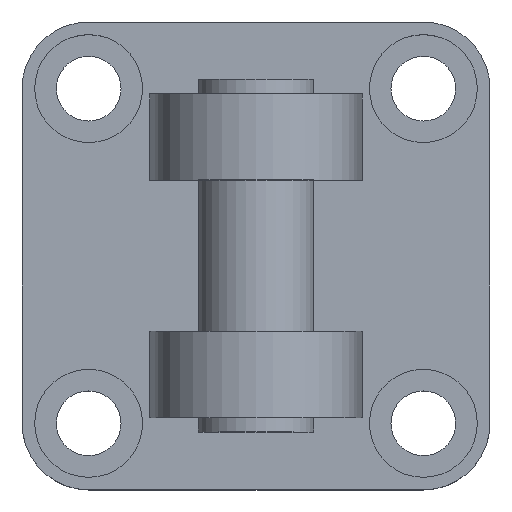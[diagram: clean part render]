
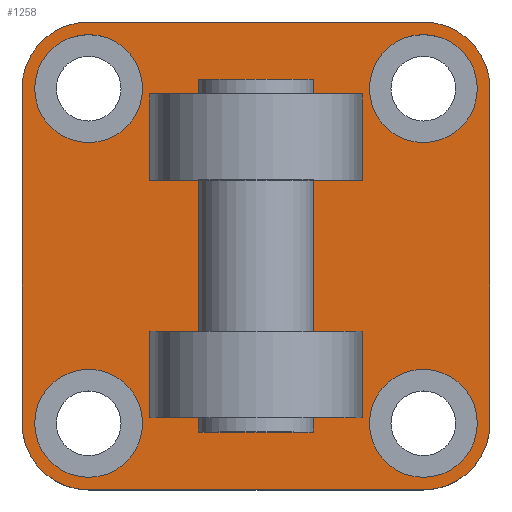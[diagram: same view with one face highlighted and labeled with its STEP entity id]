
A CAD part, top view. The second image highlights one B-rep face of the part: STEP entity #1258.
In plain terms, the highlighted planar face has unit normal (0, 0, 1).
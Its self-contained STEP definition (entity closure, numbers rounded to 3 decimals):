
#151=CARTESIAN_POINT('',(32.5,-23.25,10.0));
#152=VERTEX_POINT('',#151);
#153=CARTESIAN_POINT('',(23.25,-32.5,10.0));
#154=VERTEX_POINT('',#153);
#155=CARTESIAN_POINT('',(23.25,-23.25,10.0));
#156=DIRECTION('',(0.0,0.0,-1.));
#157=DIRECTION('',(0.707,-0.707,0.0));
#158=AXIS2_PLACEMENT_3D('',#155,#156,#157);
#159=CIRCLE('',#158,9.25);
#160=EDGE_CURVE('',#152,#154,#159,.T.);
#202=CARTESIAN_POINT('',(32.5,23.25,10.0));
#203=VERTEX_POINT('',#202);
#210=CARTESIAN_POINT('',(32.5,23.25,10.0));
#211=DIRECTION('',(0.0,-1.0,0.0));
#212=VECTOR('',#211,46.5);
#213=LINE('',#210,#212);
#214=EDGE_CURVE('',#203,#152,#213,.T.);
#338=CARTESIAN_POINT('',(-32.5,23.25,10.0));
#339=VERTEX_POINT('',#338);
#340=CARTESIAN_POINT('',(-23.25,32.5,10.0));
#341=VERTEX_POINT('',#340);
#342=CARTESIAN_POINT('',(-23.25,23.25,10.0));
#343=DIRECTION('',(0.0,0.0,-1.));
#344=DIRECTION('',(-0.707,0.707,0.0));
#345=AXIS2_PLACEMENT_3D('',#342,#343,#344);
#346=CIRCLE('',#345,9.25);
#347=EDGE_CURVE('',#339,#341,#346,.T.);
#371=CARTESIAN_POINT('',(23.25,32.5,10.0));
#372=VERTEX_POINT('',#371);
#373=CARTESIAN_POINT('',(-23.25,32.5,10.0));
#374=DIRECTION('',(1.0,0.0,0.0));
#375=VECTOR('',#374,46.5);
#376=LINE('',#373,#375);
#377=EDGE_CURVE('',#341,#372,#376,.T.);
#394=CARTESIAN_POINT('',(23.25,23.25,10.0));
#395=DIRECTION('',(0.0,0.0,-1.));
#396=DIRECTION('',(0.707,0.707,0.0));
#397=AXIS2_PLACEMENT_3D('',#394,#395,#396);
#398=CIRCLE('',#397,9.25);
#399=EDGE_CURVE('',#372,#203,#398,.T.);
#412=CARTESIAN_POINT('',(-23.25,-32.5,10.0));
#413=VERTEX_POINT('',#412);
#414=CARTESIAN_POINT('',(-32.5,-23.25,10.0));
#415=VERTEX_POINT('',#414);
#416=CARTESIAN_POINT('',(-23.25,-23.25,10.0));
#417=DIRECTION('',(0.0,0.0,-1.));
#418=DIRECTION('',(-0.707,-0.707,0.0));
#419=AXIS2_PLACEMENT_3D('',#416,#417,#418);
#420=CIRCLE('',#419,9.25);
#421=EDGE_CURVE('',#413,#415,#420,.T.);
#447=CARTESIAN_POINT('',(-32.5,-23.25,10.0));
#448=DIRECTION('',(0.0,1.0,0.0));
#449=VECTOR('',#448,46.5);
#450=LINE('',#447,#449);
#451=EDGE_CURVE('',#415,#339,#450,.T.);
#510=CARTESIAN_POINT('',(30.75,23.25,10.0));
#511=VERTEX_POINT('',#510);
#512=CARTESIAN_POINT('',(23.25,23.25,10.0));
#513=DIRECTION('',(0.0,0.0,-1.0));
#514=DIRECTION('',(1.0,0.0,0.0));
#515=AXIS2_PLACEMENT_3D('',#512,#513,#514);
#516=CIRCLE('',#515,7.5);
#517=EDGE_CURVE('',#511,#511,#516,.T.);
#612=CARTESIAN_POINT('',(-15.75,-23.25,10.0));
#613=VERTEX_POINT('',#612);
#614=CARTESIAN_POINT('',(-23.25,-23.25,10.0));
#615=DIRECTION('',(0.0,0.0,-1.0));
#616=DIRECTION('',(1.0,0.0,0.0));
#617=AXIS2_PLACEMENT_3D('',#614,#615,#616);
#618=CIRCLE('',#617,7.5);
#619=EDGE_CURVE('',#613,#613,#618,.T.);
#714=CARTESIAN_POINT('',(-15.75,23.25,10.0));
#715=VERTEX_POINT('',#714);
#716=CARTESIAN_POINT('',(-23.25,23.25,10.0));
#717=DIRECTION('',(0.0,0.0,-1.0));
#718=DIRECTION('',(1.0,0.0,0.0));
#719=AXIS2_PLACEMENT_3D('',#716,#717,#718);
#720=CIRCLE('',#719,7.5);
#721=EDGE_CURVE('',#715,#715,#720,.T.);
#816=CARTESIAN_POINT('',(30.75,-23.25,10.0));
#817=VERTEX_POINT('',#816);
#818=CARTESIAN_POINT('',(23.25,-23.25,10.0));
#819=DIRECTION('',(0.0,0.0,-1.0));
#820=DIRECTION('',(1.0,0.0,0.0));
#821=AXIS2_PLACEMENT_3D('',#818,#819,#820);
#822=CIRCLE('',#821,7.5);
#823=EDGE_CURVE('',#817,#817,#822,.T.);
#919=CARTESIAN_POINT('',(14.756,-10.5,10.));
#920=VERTEX_POINT('',#919);
#929=CARTESIAN_POINT('',(-14.756,-10.5,10.));
#930=VERTEX_POINT('',#929);
#931=CARTESIAN_POINT('',(14.756,-10.5,10.));
#932=DIRECTION('',(-1.0,0.0,0.0));
#933=VECTOR('',#932,29.511);
#934=LINE('',#931,#933);
#935=EDGE_CURVE('',#920,#930,#934,.T.);
#965=CARTESIAN_POINT('',(14.756,10.5,10.));
#966=VERTEX_POINT('',#965);
#982=CARTESIAN_POINT('',(-14.756,10.5,10.));
#983=VERTEX_POINT('',#982);
#990=CARTESIAN_POINT('',(14.756,10.5,10.));
#991=DIRECTION('',(-1.0,0.0,0.0));
#992=VECTOR('',#991,29.511);
#993=LINE('',#990,#992);
#994=EDGE_CURVE('',#966,#983,#993,.T.);
#1016=CARTESIAN_POINT('',(14.756,-22.5,10.0));
#1017=VERTEX_POINT('',#1016);
#1024=CARTESIAN_POINT('',(14.756,-10.5,10.));
#1025=DIRECTION('',(0.0,-1.0,0.0));
#1026=VECTOR('',#1025,12.);
#1027=LINE('',#1024,#1026);
#1028=EDGE_CURVE('',#920,#1017,#1027,.T.);
#1064=CARTESIAN_POINT('',(-14.756,-22.5,10.0));
#1065=VERTEX_POINT('',#1064);
#1066=CARTESIAN_POINT('',(-14.756,-22.5,10.0));
#1067=DIRECTION('',(0.0,1.0,0.0));
#1068=VECTOR('',#1067,12.);
#1069=LINE('',#1066,#1068);
#1070=EDGE_CURVE('',#1065,#930,#1069,.T.);
#1089=CARTESIAN_POINT('',(14.756,-22.5,10.0));
#1090=DIRECTION('',(-1.0,0.0,0.0));
#1091=VECTOR('',#1090,29.511);
#1092=LINE('',#1089,#1091);
#1093=EDGE_CURVE('',#1017,#1065,#1092,.T.);
#1108=CARTESIAN_POINT('',(14.756,22.5,10.0));
#1109=VERTEX_POINT('',#1108);
#1110=CARTESIAN_POINT('',(14.756,22.5,10.0));
#1111=DIRECTION('',(0.0,-1.0,0.0));
#1112=VECTOR('',#1111,12.);
#1113=LINE('',#1110,#1112);
#1114=EDGE_CURVE('',#1109,#966,#1113,.T.);
#1165=CARTESIAN_POINT('',(-14.756,22.5,10.0));
#1166=VERTEX_POINT('',#1165);
#1173=CARTESIAN_POINT('',(-14.756,10.5,10.));
#1174=DIRECTION('',(0.0,1.0,0.0));
#1175=VECTOR('',#1174,12.);
#1176=LINE('',#1173,#1175);
#1177=EDGE_CURVE('',#983,#1166,#1176,.T.);
#1187=CARTESIAN_POINT('',(-14.756,22.5,10.0));
#1188=DIRECTION('',(1.0,0.0,0.0));
#1189=VECTOR('',#1188,29.511);
#1190=LINE('',#1187,#1189);
#1191=EDGE_CURVE('',#1166,#1109,#1190,.T.);
#1208=CARTESIAN_POINT('',(23.25,-32.5,10.0));
#1209=DIRECTION('',(-1.0,0.0,0.0));
#1210=VECTOR('',#1209,46.5);
#1211=LINE('',#1208,#1210);
#1212=EDGE_CURVE('',#154,#413,#1211,.T.);
#1219=CARTESIAN_POINT('',(0.0,0.,10.0));
#1220=DIRECTION('',(0.0,0.0,1.0));
#1221=DIRECTION('',(1.0,0.0,0.0));
#1222=AXIS2_PLACEMENT_3D('',#1219,#1220,#1221);
#1223=PLANE('',#1222);
#1224=ORIENTED_EDGE('',*,*,#160,.F.);
#1225=ORIENTED_EDGE('',*,*,#214,.F.);
#1226=ORIENTED_EDGE('',*,*,#399,.F.);
#1227=ORIENTED_EDGE('',*,*,#377,.F.);
#1228=ORIENTED_EDGE('',*,*,#347,.F.);
#1229=ORIENTED_EDGE('',*,*,#451,.F.);
#1230=ORIENTED_EDGE('',*,*,#421,.F.);
#1231=ORIENTED_EDGE('',*,*,#1212,.F.);
#1232=EDGE_LOOP('',(#1224,#1225,#1226,#1227,#1228,#1229,#1230,#1231));
#1233=FACE_OUTER_BOUND('',#1232,.T.);
#1234=ORIENTED_EDGE('',*,*,#517,.T.);
#1235=EDGE_LOOP('',(#1234));
#1236=FACE_BOUND('',#1235,.T.);
#1237=ORIENTED_EDGE('',*,*,#619,.T.);
#1238=EDGE_LOOP('',(#1237));
#1239=FACE_BOUND('',#1238,.T.);
#1240=ORIENTED_EDGE('',*,*,#721,.T.);
#1241=EDGE_LOOP('',(#1240));
#1242=FACE_BOUND('',#1241,.T.);
#1243=ORIENTED_EDGE('',*,*,#823,.T.);
#1244=EDGE_LOOP('',(#1243));
#1245=FACE_BOUND('',#1244,.T.);
#1246=ORIENTED_EDGE('',*,*,#1028,.T.);
#1247=ORIENTED_EDGE('',*,*,#1093,.T.);
#1248=ORIENTED_EDGE('',*,*,#1070,.T.);
#1249=ORIENTED_EDGE('',*,*,#935,.F.);
#1250=EDGE_LOOP('',(#1246,#1247,#1248,#1249));
#1251=FACE_BOUND('',#1250,.T.);
#1252=ORIENTED_EDGE('',*,*,#994,.T.);
#1253=ORIENTED_EDGE('',*,*,#1177,.T.);
#1254=ORIENTED_EDGE('',*,*,#1191,.T.);
#1255=ORIENTED_EDGE('',*,*,#1114,.T.);
#1256=EDGE_LOOP('',(#1252,#1253,#1254,#1255));
#1257=FACE_BOUND('',#1256,.T.);
#1258=ADVANCED_FACE('',(#1233,#1236,#1239,#1242,#1245,#1251,#1257),#1223,.T.);
